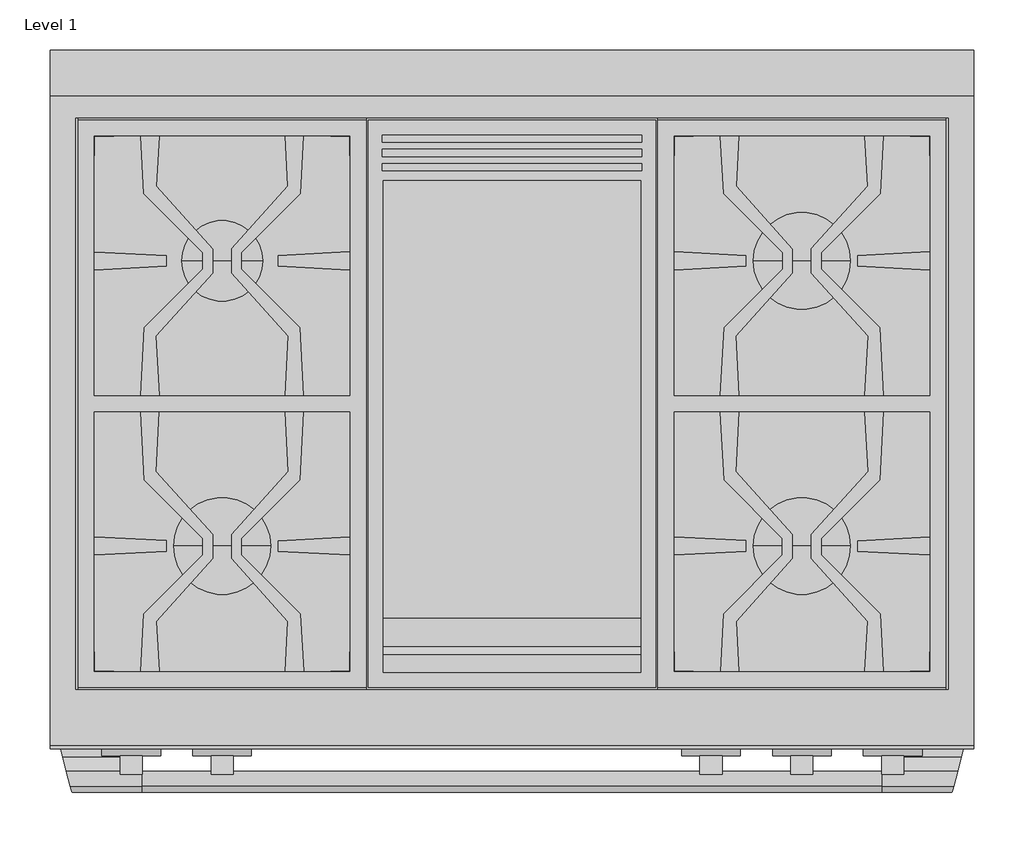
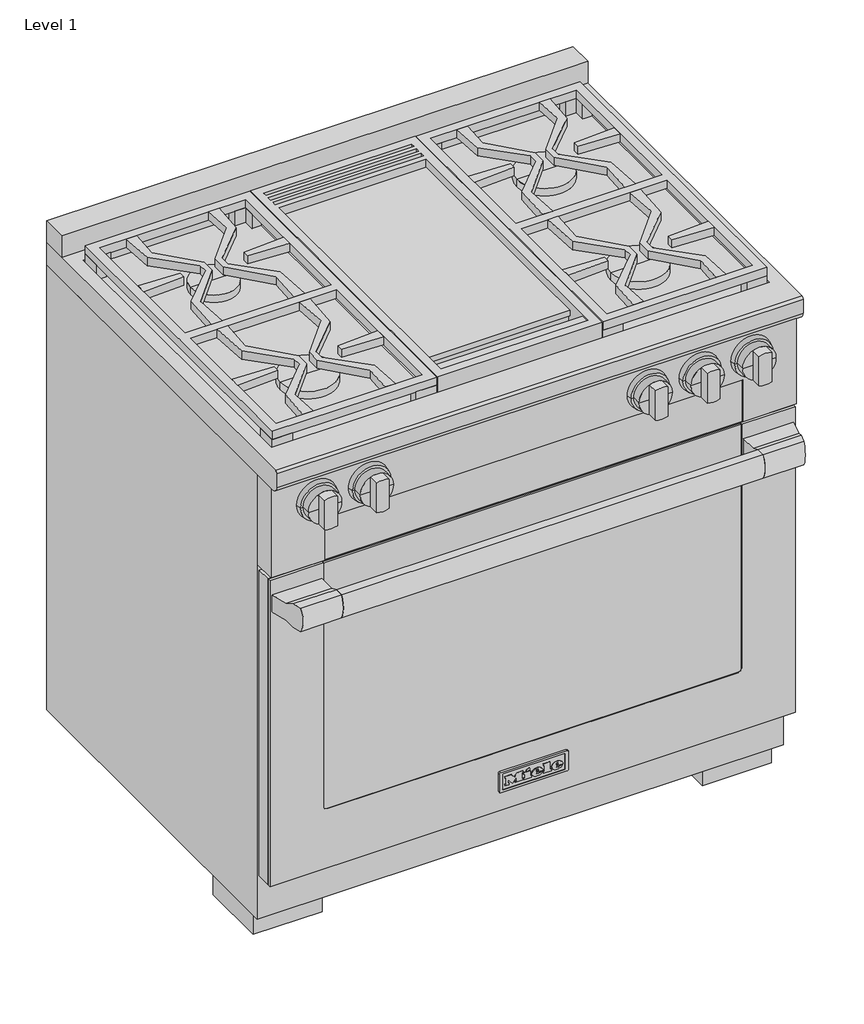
# One storey: 1 proxy.
"""IFC4 building model written with IfcOpenShell, lengths in millimetres."""

from ifc_helpers import new_model, si_unit, origin, place, context, project, spatial, transform, mapped, element, save
from components import specialty_equipment_e9b42d80, specialty_equipment_07847b57

model = new_model("IFC4")

# Units and contexts
model_context = context("Model", 3, world=origin())
ifc_project = project(units=[si_unit("LENGTHUNIT", "METRE", prefix="MILLI")], contexts=[model_context])

# Site, building, storey
site = spatial("IfcSite", under=ifc_project)
building = spatial("IfcBuilding", under=site)
storey = spatial("IfcBuildingStorey", under=building, Name="Level 1", Elevation=0.0)

# Proxy
placement = place(None, origin())
specialty_equipment_shape = specialty_equipment_e9b42d80(model_context)
specialty_equipment_2_shape = specialty_equipment_07847b57(model_context)
element("IfcBuildingElementProxy", 1, Name="10902410_USA_HR1936-2G_EDST-CLST : 25193671_USA_10902410_HR1936-2G_EDST-CLST", ObjectType="10902410_USA_HR1936-2G_EDST-CLST : 25193671_USA_10902410_HR1936-2G_EDST-CLST", at=placement, inside=storey, context=model_context, shape_type="MappedRepresentation", body=[
    mapped(specialty_equipment_shape, transform((0.0, 0.0, 0.0), x_axis=(1.0, 0.0, 0.0), y_axis=(0.0, 1.0, 0.0), z_axis=(0.0, 0.0, 1.0))),
    mapped(specialty_equipment_2_shape, transform((0.0, 0.0, 0.0), x_axis=(1.0, 0.0, 0.0), y_axis=(0.0, 1.0, 0.0), z_axis=(0.0, 0.0, 1.0))),
])

save(model, "model.ifc")
